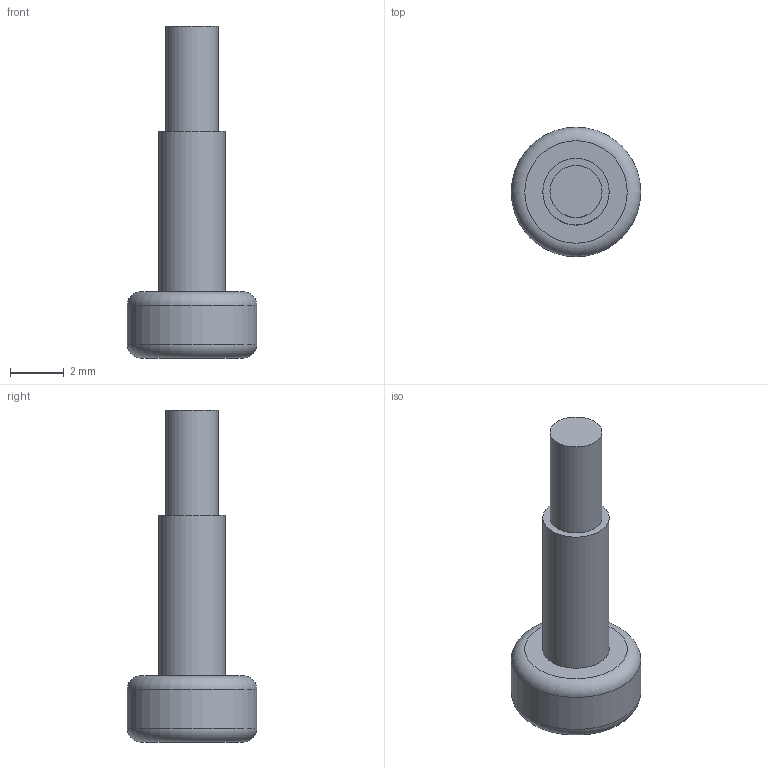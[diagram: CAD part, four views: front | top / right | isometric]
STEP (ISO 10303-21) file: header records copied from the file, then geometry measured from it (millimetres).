
FILE_DESCRIPTION(/* description */ (''),/* implementation_level */ '2;1');
FILE_NAME(/* name */ 'Y-JG-WJ-B00141-01.stp',/* time_stamp */ '2024-04-13T19:04:09+08:00',/* author */ (''),/* organization */ (''),/* preprocessor_version */ 'ST-DEVELOPER v16',/* originating_system */ 'SIEMENS PLM Software NX 10.0',/* authorisation */ '');
FILE_SCHEMA (('AUTOMOTIVE_DESIGN { 1 0 10303 214 3 1 1 1 }'));
Length unit declared in the file: millimetre
Products named in the file (1): _model3
Bounding box: 4.8 x 4.8 x 12.3 mm (x, y, z)
Volume: 78.6 mm3; surface area: 143.8 mm2
Topology: 1 solids, 1 shells, 16 faces, 33 edges, 22 vertices
Faces by surface type: plane 11, cylinder 3, torus 2
Full cylindrical faces by diameter (mm): 1.93 x1, 2.46 x1, 4.8 x1
Entity records: 406 total; most frequent: DIRECTION 68, CARTESIAN_POINT 63, ORIENTED_EDGE 52, EDGE_CURVE 26, AXIS2_PLACEMENT_3D 25, EDGE_LOOP 24, VERTEX_POINT 20, LINE 18
